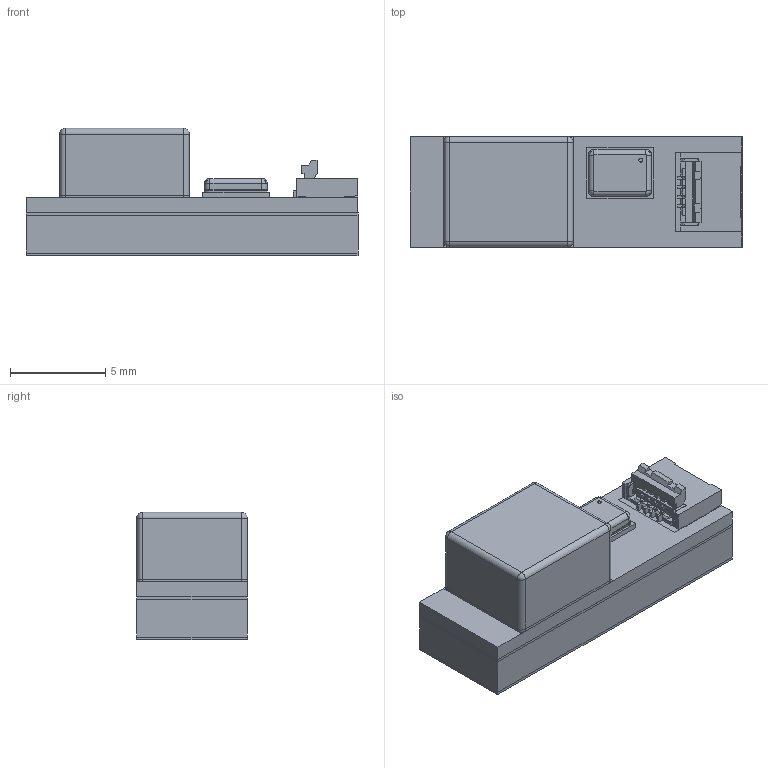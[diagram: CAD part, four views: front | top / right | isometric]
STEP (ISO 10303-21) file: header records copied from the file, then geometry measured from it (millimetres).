
FILE_DESCRIPTION (( 'STEP AP214' ), '1' );
FILE_NAME ('soundskrit_module_3H_AA11_20250123.STEP', '2025-07-31T16:37:04', ( '' ), ( '' ), 'SwSTEP 2.0', 'SolidWorks 2025', '' );
FILE_SCHEMA (( 'AUTOMOTIVE_DESIGN' ));
Length unit declared in the file: inch
Products named in the file (12): SoundSkirt_PCB_3HOLE_250123; s-50696-004xx-xxx; SKR0400_0410_0600_0610 STP; Knowles_Lazarus_SPH18C3LM4H; SK Lid channel gasket_BOT_3H_250123; soundskrit_skr4xx_v2402; SPH18C3LM4H-PCB; soundskrit_module_3H_AA11_20250123; SK_mesh_ip57_P02_250106; SK_mesh_ip57_P01_250106; SK Lid channel gasket_TOP_3H_250106; SK PCB _3HOLE_AA12
Assembly tree (12 placements, depth 4):
  soundskrit_module_3H_AA11_20250123
    SK PCB _3HOLE_AA12
      Knowles_Lazarus_SPH18C3LM4H
        SPH18C3LM4H-PCB
      soundskrit_skr4xx_v2402
        SKR0400_0410_0600_0610 STP
      SoundSkirt_PCB_3HOLE_250123
      s-50696-004xx-xxx
    SK Lid channel gasket_BOT_3H_250123
    SK_mesh_ip57_P01_250106  x2
    SK Lid channel gasket_TOP_3H_250106
    SK_mesh_ip57_P02_250106
Bounding box: 17.41 x 5.8 x 6.68 mm (x, y, z)
Volume: 403.4 mm3; surface area: 1447.1 mm2
Topology: 18 solids, 20 shells, 1150 faces, 3097 edges, 2012 vertices
Faces by surface type: plane 710, cylinder 381, bspline 32, torus 17, sphere 10
Entity records: 48461 total; most frequent: CARTESIAN_POINT 7498, ORIENTED_EDGE 6138, DIRECTION 5997, EDGE_CURVE 3069, LINE 2239, VECTOR 2239, VERTEX_POINT 2000, AXIS2_PLACEMENT_3D 1879
